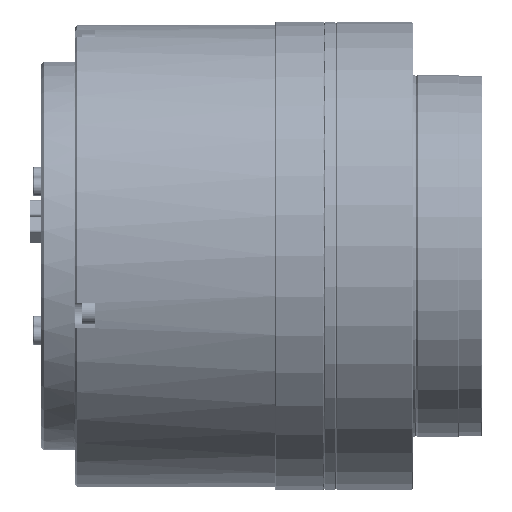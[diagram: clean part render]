
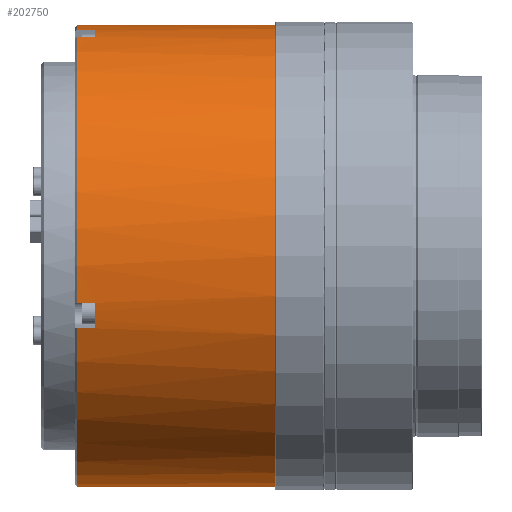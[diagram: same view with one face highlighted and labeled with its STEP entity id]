
A CAD part, front view. The second image highlights one B-rep face of the part: STEP entity #202750.
In plain terms, the highlighted cylindrical face has radius 70 mm (diameter 140 mm), a partial arc.
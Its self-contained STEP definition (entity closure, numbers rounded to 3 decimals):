
#4100 = EDGE_CURVE ( 'NONE', #256800, #136313, #100045, .T. ) ;
#12276 = ORIENTED_EDGE ( 'NONE', *, *, #4100, .T. ) ;
#16082 = CARTESIAN_POINT ( 'NONE',  ( -69.5, -21.951, 66.469 ) ) ;
#18727 = ORIENTED_EDGE ( 'NONE', *, *, #180284, .T. ) ;
#21360 = CARTESIAN_POINT ( 'NONE',  ( -15., 0., 70. ) ) ;
#21752 = DIRECTION ( 'NONE',  ( -1., 0., 0. ) ) ;
#27827 = LINE ( 'NONE', #336959, #294611 ) ;
#30367 = CARTESIAN_POINT ( 'NONE',  ( -69.5, -68.54, -14.224 ) ) ;
#31197 = CIRCLE ( 'NONE', #189439, 70. ) ;
#32970 = CARTESIAN_POINT ( 'NONE',  ( 1.5, 0., 70. ) ) ;
#34956 = AXIS2_PLACEMENT_3D ( 'NONE', #225144, #21752, #334315 ) ;
#40370 = DIRECTION ( 'NONE',  ( 0., 0., 1. ) ) ;
#42091 = CARTESIAN_POINT ( 'NONE',  ( 1.5, -68.54, -14.224 ) ) ;
#49660 = CARTESIAN_POINT ( 'NONE',  ( -75., -21.951, 66.469 ) ) ;
#54470 = EDGE_CURVE ( 'NONE', #210547, #308398, #301667, .T. ) ;
#56913 = DIRECTION ( 'NONE',  ( -1., 0., 0. ) ) ;
#66172 = DIRECTION ( 'NONE',  ( -1., 0., 0. ) ) ;
#71681 = AXIS2_PLACEMENT_3D ( 'NONE', #138430, #143465, #326145 ) ;
#72709 = CARTESIAN_POINT ( 'NONE',  ( -75., 0., 0. ) ) ;
#77132 = CARTESIAN_POINT ( 'NONE',  ( -75., -14.224, 68.54 ) ) ;
#82683 = VERTEX_POINT ( 'NONE', #21360 ) ;
#84706 = DIRECTION ( 'NONE',  ( 0., 0., 1. ) ) ;
#86372 = CARTESIAN_POINT ( 'NONE',  ( -75., 0., 0. ) ) ;
#90027 = AXIS2_PLACEMENT_3D ( 'NONE', #151709, #98801, #305413 ) ;
#97827 = EDGE_CURVE ( 'NONE', #121361, #327801, #213397, .T. ) ;
#98801 = DIRECTION ( 'NONE',  ( 1., 0., 0. ) ) ;
#100045 = CIRCLE ( 'NONE', #165657, 70. ) ;
#108875 = CARTESIAN_POINT ( 'NONE',  ( -69.5, -14.224, 68.54 ) ) ;
#109790 = DIRECTION ( 'NONE',  ( 1., 0., 0. ) ) ;
#113602 = CARTESIAN_POINT ( 'NONE',  ( -69.5, -66.469, -21.951 ) ) ;
#117364 = ORIENTED_EDGE ( 'NONE', *, *, #54470, .T. ) ;
#117439 = LINE ( 'NONE', #146432, #135284 ) ;
#121361 = VERTEX_POINT ( 'NONE', #16082 ) ;
#131904 = ORIENTED_EDGE ( 'NONE', *, *, #170158, .T. ) ;
#135284 = VECTOR ( 'NONE', #66172, 1000. ) ;
#136313 = VERTEX_POINT ( 'NONE', #77132 ) ;
#138430 = CARTESIAN_POINT ( 'NONE',  ( -69.5, 0., 0. ) ) ;
#141612 = ORIENTED_EDGE ( 'NONE', *, *, #97827, .F. ) ;
#142473 = DIRECTION ( 'NONE',  ( 1., 0., 0. ) ) ;
#143465 = DIRECTION ( 'NONE',  ( -1., 0., 0. ) ) ;
#146432 = CARTESIAN_POINT ( 'NONE',  ( 1.5, -21.951, 66.469 ) ) ;
#146506 = AXIS2_PLACEMENT_3D ( 'NONE', #86372, #315276, #84706 ) ;
#146596 = CARTESIAN_POINT ( 'NONE',  ( -69.5, 0., 0. ) ) ;
#148279 = DIRECTION ( 'NONE',  ( -1., 0., 0. ) ) ;
#151312 = DIRECTION ( 'NONE',  ( 1., 0., 0. ) ) ;
#151709 = CARTESIAN_POINT ( 'NONE',  ( -75., 0., 0. ) ) ;
#152711 = EDGE_CURVE ( 'NONE', #136313, #327801, #27827, .T. ) ;
#154524 = ORIENTED_EDGE ( 'NONE', *, *, #291981, .T. ) ;
#156381 = LINE ( 'NONE', #183686, #265386 ) ;
#165056 = VECTOR ( 'NONE', #56913, 1000. ) ;
#165657 = AXIS2_PLACEMENT_3D ( 'NONE', #72709, #274338, #40370 ) ;
#168571 = CARTESIAN_POINT ( 'NONE',  ( -75., -68.54, -14.224 ) ) ;
#170033 = EDGE_LOOP ( 'NONE', ( #303233, #329095, #296627, #12276, #334163, #141612, #154524, #131904, #117364, #217486, #248077, #18727 ) ) ;
#170158 = EDGE_CURVE ( 'NONE', #186890, #210547, #280829, .T. ) ;
#171405 = EDGE_CURVE ( 'NONE', #273958, #181062, #156381, .T. ) ;
#171444 = DIRECTION ( 'NONE',  ( 0., 0., -1. ) ) ;
#173109 = CARTESIAN_POINT ( 'NONE',  ( -15., 0., 0. ) ) ;
#176939 = EDGE_CURVE ( 'NONE', #82683, #291160, #31197, .T. ) ;
#180284 = EDGE_CURVE ( 'NONE', #181062, #266106, #277371, .T. ) ;
#181062 = VERTEX_POINT ( 'NONE', #259810 ) ;
#183686 = CARTESIAN_POINT ( 'NONE',  ( 1.5, -66.469, -21.951 ) ) ;
#186890 = VERTEX_POINT ( 'NONE', #49660 ) ;
#188425 = LINE ( 'NONE', #32970, #165056 ) ;
#189439 = AXIS2_PLACEMENT_3D ( 'NONE', #173109, #142473, #171444 ) ;
#197826 = FACE_OUTER_BOUND ( 'NONE', #170033, .T. ) ;
#200962 = VECTOR ( 'NONE', #151312, 1000. ) ;
#202750 = ADVANCED_FACE ( 'NONE', ( #197826 ), #306983, .T. ) ;
#207792 = DIRECTION ( 'NONE',  ( -1., 0., 0. ) ) ;
#210547 = VERTEX_POINT ( 'NONE', #168571 ) ;
#213397 = CIRCLE ( 'NONE', #71681, 70. ) ;
#214951 = CIRCLE ( 'NONE', #253116, 70. ) ;
#216154 = CARTESIAN_POINT ( 'NONE',  ( -75., 0., -70. ) ) ;
#217486 = ORIENTED_EDGE ( 'NONE', *, *, #254277, .F. ) ;
#225144 = CARTESIAN_POINT ( 'NONE',  ( 1.5, 0., 0. ) ) ;
#231790 = EDGE_CURVE ( 'NONE', #82683, #256800, #188425, .T. ) ;
#248077 = ORIENTED_EDGE ( 'NONE', *, *, #171405, .T. ) ;
#250712 = DIRECTION ( 'NONE',  ( 0., 0., 1. ) ) ;
#253116 = AXIS2_PLACEMENT_3D ( 'NONE', #146596, #148279, #250712 ) ;
#254277 = EDGE_CURVE ( 'NONE', #273958, #308398, #214951, .T. ) ;
#256800 = VERTEX_POINT ( 'NONE', #257436 ) ;
#257436 = CARTESIAN_POINT ( 'NONE',  ( -75., 0., 70. ) ) ;
#259810 = CARTESIAN_POINT ( 'NONE',  ( -75., -66.469, -21.951 ) ) ;
#260498 = DIRECTION ( 'NONE',  ( -1., 0., 0. ) ) ;
#260656 = CARTESIAN_POINT ( 'NONE',  ( 1.5, 0., -70. ) ) ;
#261542 = CARTESIAN_POINT ( 'NONE',  ( -15., 0., -70. ) ) ;
#265386 = VECTOR ( 'NONE', #260498, 1000. ) ;
#266106 = VERTEX_POINT ( 'NONE', #216154 ) ;
#273958 = VERTEX_POINT ( 'NONE', #113602 ) ;
#274338 = DIRECTION ( 'NONE',  ( 1., 0., 0. ) ) ;
#277371 = CIRCLE ( 'NONE', #146506, 70. ) ;
#280829 = CIRCLE ( 'NONE', #90027, 70. ) ;
#291160 = VERTEX_POINT ( 'NONE', #261542 ) ;
#291981 = EDGE_CURVE ( 'NONE', #121361, #186890, #117439, .T. ) ;
#294611 = VECTOR ( 'NONE', #109790, 1000. ) ;
#296627 = ORIENTED_EDGE ( 'NONE', *, *, #231790, .T. ) ;
#301667 = LINE ( 'NONE', #42091, #200962 ) ;
#303233 = ORIENTED_EDGE ( 'NONE', *, *, #309382, .F. ) ;
#305413 = DIRECTION ( 'NONE',  ( 0., 0., 1. ) ) ;
#306983 = CYLINDRICAL_SURFACE ( 'NONE', #34956, 70. ) ;
#308398 = VERTEX_POINT ( 'NONE', #30367 ) ;
#309382 = EDGE_CURVE ( 'NONE', #291160, #266106, #317009, .T. ) ;
#315276 = DIRECTION ( 'NONE',  ( 1., 0., 0. ) ) ;
#317009 = LINE ( 'NONE', #260656, #337039 ) ;
#326145 = DIRECTION ( 'NONE',  ( 0., 0., 1. ) ) ;
#327801 = VERTEX_POINT ( 'NONE', #108875 ) ;
#329095 = ORIENTED_EDGE ( 'NONE', *, *, #176939, .F. ) ;
#334163 = ORIENTED_EDGE ( 'NONE', *, *, #152711, .T. ) ;
#334315 = DIRECTION ( 'NONE',  ( 0., 0., 1. ) ) ;
#336959 = CARTESIAN_POINT ( 'NONE',  ( 1.5, -14.224, 68.54 ) ) ;
#337039 = VECTOR ( 'NONE', #207792, 1000. ) ;
